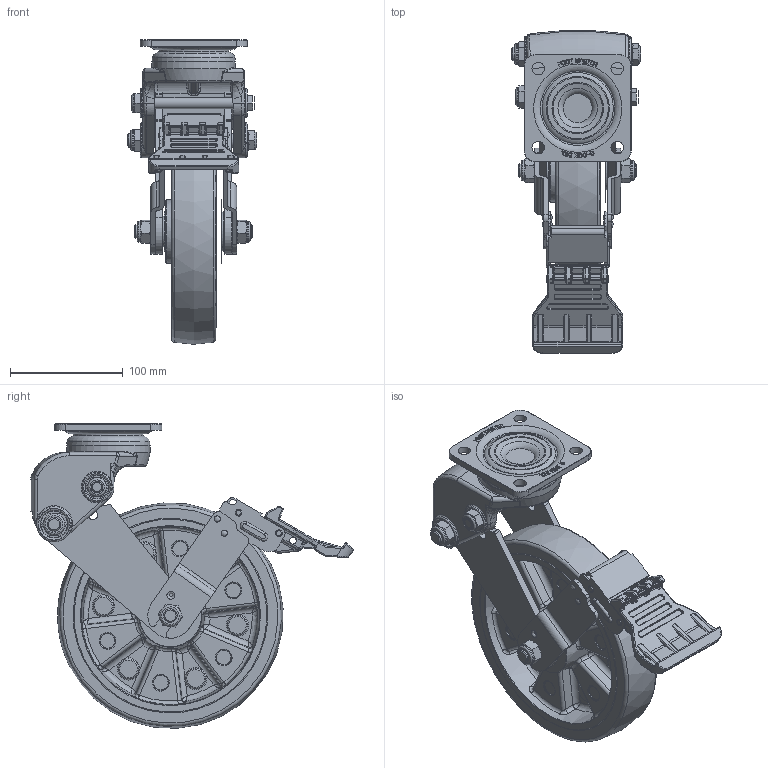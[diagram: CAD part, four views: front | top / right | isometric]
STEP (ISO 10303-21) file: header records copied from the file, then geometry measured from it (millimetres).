
FILE_DESCRIPTION(/* description */ (''),/* implementation_level */ '2;1');
FILE_NAME(/* name */ 'D:\★제품 렌더링\모델링파일\FULL 3D\GDS-200-SERIES\외부용\GDS-200-BSF-ASSY_Shrinkwrap_1.stp',/* time_stamp */ '2022-12-26T15:14:58+09:00',/* author */ ('장용하'),/* organization */ (''),/* preprocessor_version */ 'ST-DEVELOPER v18.1',/* originating_system */ 'Autodesk Inventor 2021',/* authorisation */ '');
FILE_SCHEMA (('AUTOMOTIVE_DESIGN { 1 0 10303 214 3 1 1 }'));
Products named in the file (1): GDS-200-BSF-ASSY_Shrinkwrap_1
Bounding box: 114.5 x 285.82 x 269.79 mm (x, y, z)
Volume: 1227465 mm3; surface area: 276275 mm2
Topology: 2 solids, 2 shells, 1840 faces, 4713 edges, 2855 vertices
Faces by surface type: plane 564, bspline 451, cylinder 431, torus 235, cone 99, sphere 60
Full cylindrical faces by diameter (mm): 4 x2, 4.2 x4, 4.8 x2, 6 x2, 7.5 x2, 8 x2, 8.2 x2, 10 x1, 11 x4, 12 x4, 12.2 x2, 13 x2, 18.5 x3, 18.6 x1, 24 x1, 26 x2, 27 x2, 35 x2, 62 x1, 74 x1
Entity records: 74709 total; most frequent: CARTESIAN_POINT 30524, ORIENTED_EDGE 9208, DIRECTION 8360, EDGE_CURVE 4604, AXIS2_PLACEMENT_3D 3316, VERTEX_POINT 2855, EDGE_LOOP 1967, FACE_OUTER_BOUND 1840
